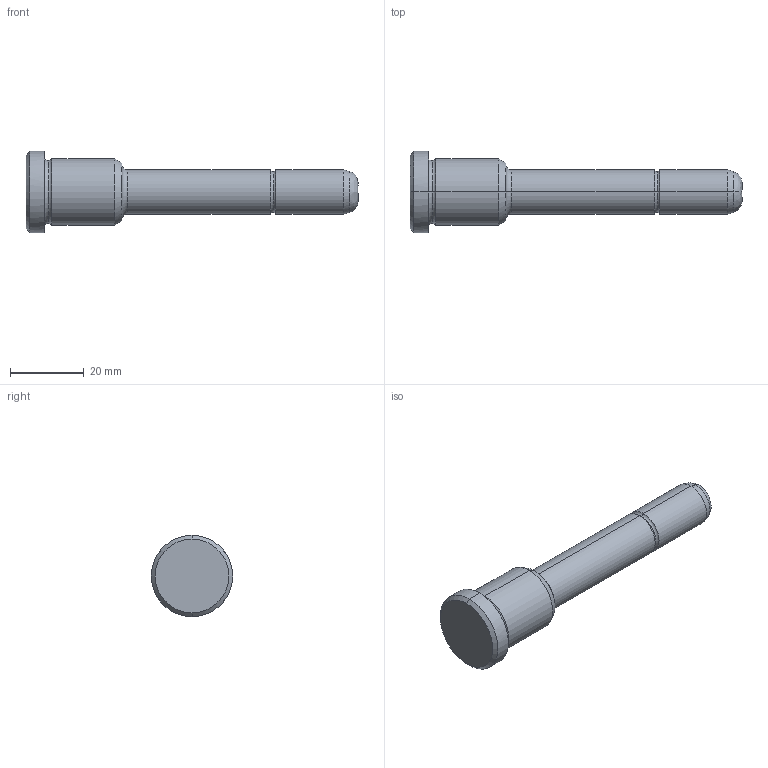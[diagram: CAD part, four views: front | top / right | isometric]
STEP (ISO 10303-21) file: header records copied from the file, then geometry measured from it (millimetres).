
FILE_DESCRIPTION(('CATIA V5 STEP Exchange'),'2;1');
FILE_NAME('C:\Users\Utente\Desktop\IO LAVORO\3D X SITO CF\X SITO\PLASTICA\351\351-12X26X90.stp','2021-08-17T12:08:56+00:00',('none'),('none'),'CATIA Version 5 Release 20 GA (IN-10)','CATIA V5 STEP AP203','none');
FILE_SCHEMA(('CONFIG_CONTROL_DESIGN'));
Length unit declared in the file: millimetre
Products named in the file (1): 351-12X26X90
Bounding box: 90 x 22 x 22 mm (x, y, z)
Volume: 14241.5 mm3; surface area: 4546 mm2
Topology: 1 solids, 1 shells, 30 faces, 86 edges, 60 vertices
Faces by surface type: torus 10, cylinder 8, cone 6, plane 4, bspline 2
Entity records: 1128 total; most frequent: CARTESIAN_POINT 343, ORIENTED_EDGE 172, DIRECTION 124, EDGE_CURVE 86, AXIS2_PLACEMENT_3D 83, VERTEX_POINT 60, CIRCLE 54, EDGE_LOOP 32
